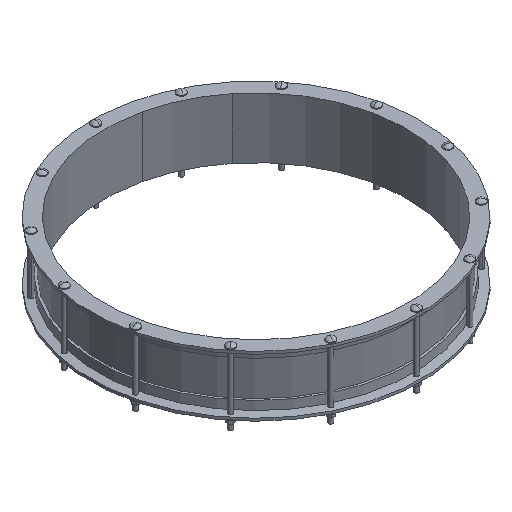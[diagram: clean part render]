
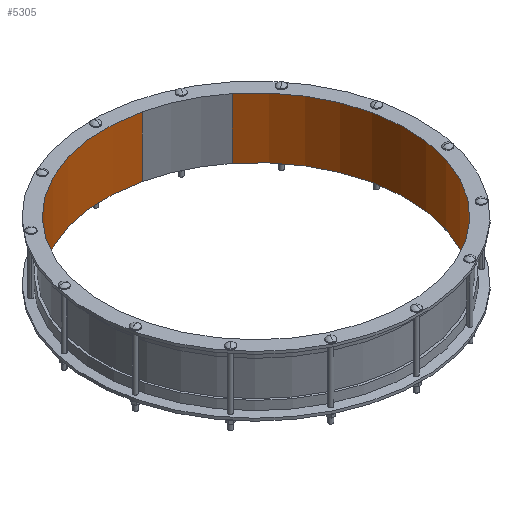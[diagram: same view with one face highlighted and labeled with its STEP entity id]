
A CAD part, isometric view. The second image highlights one B-rep face of the part: STEP entity #5305.
In plain terms, the highlighted cylindrical face has radius 560.5 mm (diameter 1121 mm), a partial arc.
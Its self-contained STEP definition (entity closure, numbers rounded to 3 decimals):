
#266=CARTESIAN_POINT('',(0.,0.,-112.));
#267=DIRECTION('',(0.,0.,-1.));
#268=DIRECTION('',(0.623,0.782,0.));
#269=AXIS2_PLACEMENT_3D('',#266,#267,#268);
#416=DIRECTION('',(0.,0.,1.));
#417=VECTOR('',#416,224.);
#418=CARTESIAN_POINT('',(124.723,546.447,-112.));
#419=LINE('',#418,#417);
#420=CARTESIAN_POINT('',(0.,0.,112.));
#421=DIRECTION('',(0.,0.,-1.));
#422=DIRECTION('',(0.623,0.782,0.));
#423=AXIS2_PLACEMENT_3D('',#420,#421,#422);
#430=DIRECTION('',(0.,0.,1.));
#431=VECTOR('',#430,224.);
#432=CARTESIAN_POINT('',(349.466,438.217,-112.));
#433=LINE('',#432,#431);
#4902=CARTESIAN_POINT('',(124.723,546.447,-112.));
#4903=CARTESIAN_POINT('',(124.723,546.447,112.));
#4904=VERTEX_POINT('',#4902);
#4905=VERTEX_POINT('',#4903);
#4926=CARTESIAN_POINT('',(349.466,438.217,-112.));
#4927=CARTESIAN_POINT('',(349.466,438.217,112.));
#4928=VERTEX_POINT('',#4926);
#4929=VERTEX_POINT('',#4927);
#5291=CARTESIAN_POINT('',(0.,0.,-123.2));
#5292=DIRECTION('',(0.,0.,1.));
#5293=DIRECTION('',(-0.223,0.975,0.));
#5294=AXIS2_PLACEMENT_3D('',#5291,#5292,#5293);
#5295=CYLINDRICAL_SURFACE('',#5294,560.5);
#5297=ORIENTED_EDGE('',*,*,#5296,.F.);
#5298=ORIENTED_EDGE('',*,*,#5284,.F.);
#5300=ORIENTED_EDGE('',*,*,#5299,.T.);
#5302=ORIENTED_EDGE('',*,*,#5301,.T.);
#5303=EDGE_LOOP('',(#5297,#5298,#5300,#5302));
#5304=FACE_OUTER_BOUND('',#5303,.F.);
#5305=ADVANCED_FACE('',(#5304),#5295,.F.);
#270=CIRCLE('',#269,560.5);
#424=CIRCLE('',#423,560.5);
#5284=EDGE_CURVE('',#4928,#4904,#270,.T.);
#5296=EDGE_CURVE('',#4904,#4905,#419,.T.);
#5299=EDGE_CURVE('',#4928,#4929,#433,.T.);
#5301=EDGE_CURVE('',#4929,#4905,#424,.T.);
